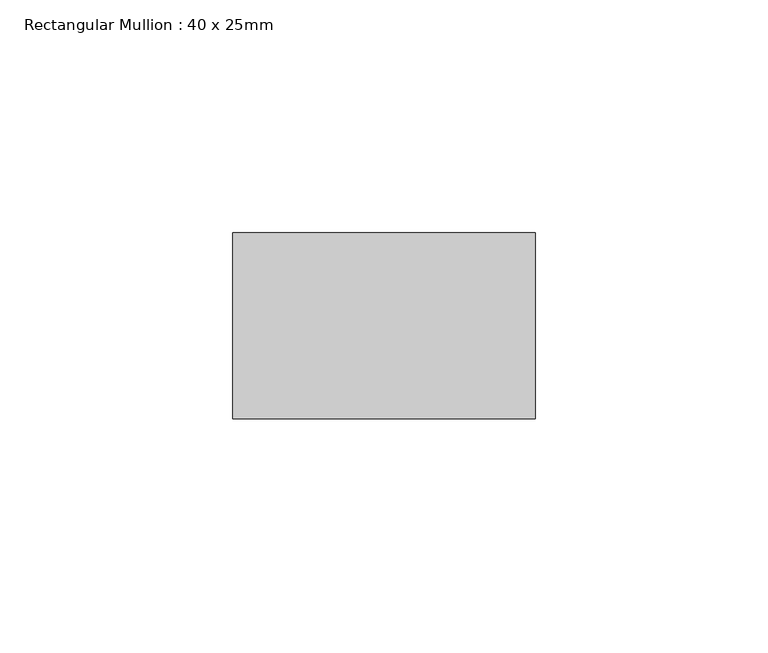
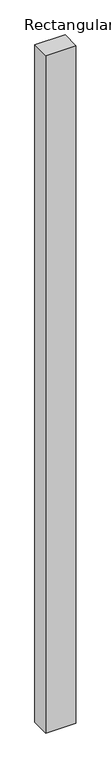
"""IFC4 building model written with IfcOpenShell, lengths in millimetres: member geometry, Rectangular Mullion : 40 x 25mm."""

from ifc_helpers import new_model, si_unit, frame, origin, place, context, project, spatial, polyline, outline, extrude, source, transform, mapped, element, save


def rectangular_mullion_40_x_25mm_ed38f3ac(model_context):
    return source(origin(), model_context, "Body", "SweptSolid", [
        extrude(outline(polyline([(0.0, -20.0), (0.0, -60.0), (-65.0, -60.0), (-65.0, -20.0), (0.0, -20.0)])), frame((0.0, 0.0, -1538.6), z_axis=(0.0, 0.0, 1.0), x_axis=(1.0, 0.0, 0.0)), (0.0, 0.0, 1.0), 1538.6),
    ])


if __name__ == "__main__":
    model = new_model("IFC4")
    model_context = context("Model", 3, world=origin())
    ifc_project = project(units=[si_unit("LENGTHUNIT", "METRE", prefix="MILLI")], contexts=[model_context])
    site = spatial("IfcSite", under=ifc_project)
    building = spatial("IfcBuilding", under=site)
    placement = place(None, origin())
    rectangular_mullion_40_x_25mm_shape = rectangular_mullion_40_x_25mm_ed38f3ac(model_context)
    element("IfcMember", 1, ObjectType="Rectangular Mullion : 40 x 25mm", at=placement, inside=building, context=model_context, shape_type="MappedRepresentation", body=[
        mapped(rectangular_mullion_40_x_25mm_shape, transform((0.0, 0.0, 0.0), x_axis=(1.0, 0.0, 0.0), y_axis=(0.0, 1.0, 0.0), z_axis=(0.0, 0.0, 1.0))),
    ])
    save(model, "model.ifc")
